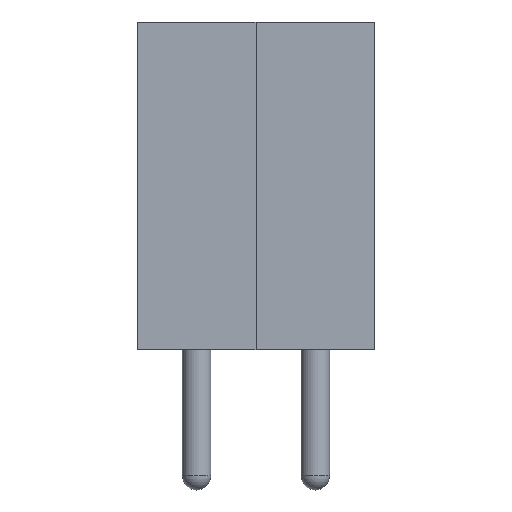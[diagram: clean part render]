
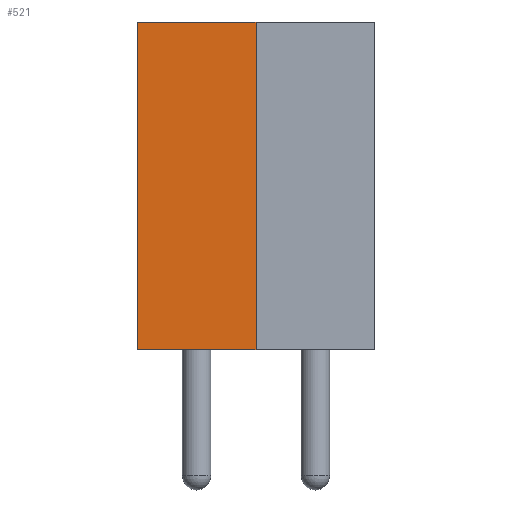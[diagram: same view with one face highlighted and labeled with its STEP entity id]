
A CAD part, top view. The second image highlights one B-rep face of the part: STEP entity #521.
In plain terms, the highlighted planar face has unit normal (0, 0, 1).
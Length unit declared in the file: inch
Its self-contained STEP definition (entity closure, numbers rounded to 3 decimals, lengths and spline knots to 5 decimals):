
#26=PLANE('',#573);
#57=FACE_OUTER_BOUND('',#88,.T.);
#88=EDGE_LOOP('',(#410,#411,#412,#413));
#124=LINE('',#794,#180);
#129=LINE('',#803,#185);
#135=LINE('',#814,#191);
#136=LINE('',#816,#192);
#180=VECTOR('',#647,0.3937);
#185=VECTOR('',#654,0.3937);
#191=VECTOR('',#664,0.3937);
#192=VECTOR('',#667,0.3937);
#251=VERTEX_POINT('',#791);
#252=VERTEX_POINT('',#793);
#255=VERTEX_POINT('',#801);
#258=VERTEX_POINT('',#812);
#305=EDGE_CURVE('',#251,#252,#124,.T.);
#310=EDGE_CURVE('',#255,#251,#129,.T.);
#316=EDGE_CURVE('',#255,#258,#135,.T.);
#317=EDGE_CURVE('',#252,#258,#136,.T.);
#410=ORIENTED_EDGE('',*,*,#310,.F.);
#411=ORIENTED_EDGE('',*,*,#316,.T.);
#412=ORIENTED_EDGE('',*,*,#317,.F.);
#413=ORIENTED_EDGE('',*,*,#305,.F.);
#521=ADVANCED_FACE('',(#57),#26,.T.);
#573=AXIS2_PLACEMENT_3D('',#815,#665,#666);
#647=DIRECTION('',(0.,1.,0.));
#654=DIRECTION('',(-1.,0.,0.));
#664=DIRECTION('',(0.,1.,0.));
#665=DIRECTION('center_axis',(0.,0.,1.));
#666=DIRECTION('ref_axis',(1.,0.,0.));
#667=DIRECTION('',(1.,0.,0.));
#791=CARTESIAN_POINT('',(0.,0.,0.1));
#793=CARTESIAN_POINT('',(0.,0.276,0.1));
#794=CARTESIAN_POINT('',(0.,0.,0.1));
#801=CARTESIAN_POINT('',(0.1,0.,0.1));
#803=CARTESIAN_POINT('',(0.1,0.,0.1));
#812=CARTESIAN_POINT('',(0.1,0.276,0.1));
#814=CARTESIAN_POINT('',(0.1,0.,0.1));
#815=CARTESIAN_POINT('Origin',(0.,0.,0.1));
#816=CARTESIAN_POINT('',(0.1,0.276,0.1));
